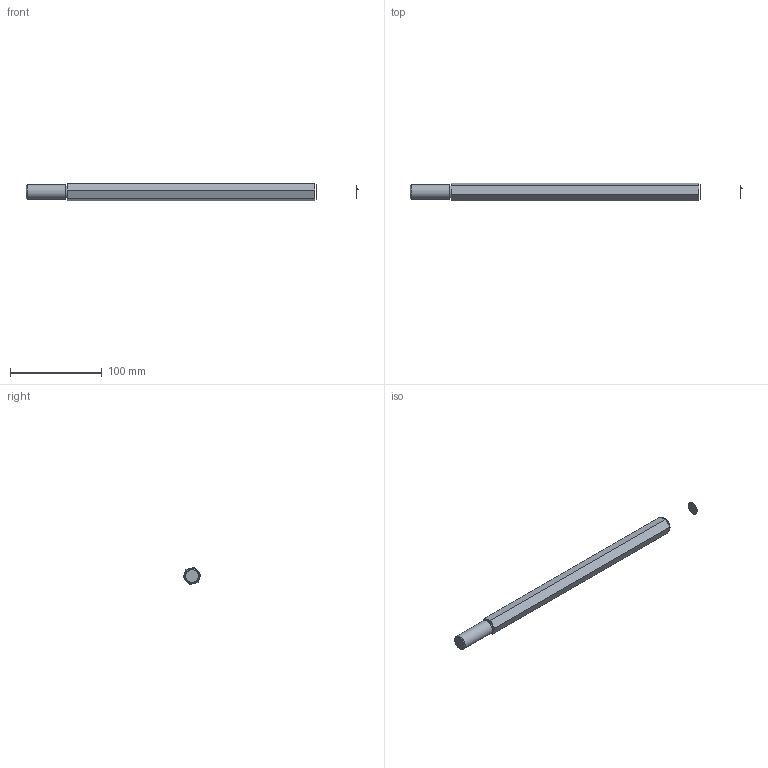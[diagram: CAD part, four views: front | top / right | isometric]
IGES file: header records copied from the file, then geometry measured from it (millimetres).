
Start section: File produced by SOLID-CONCEP (BRep Solid - Entity 186)
Global section: file name: 49.igs; native system: SOLID-CONCEPT V.5.xx; preprocessor: SOLID-CONCEPT-IGES-OUT v2.00; date: 090204.203831; units: millimetre
Bounding box: 362.02 x 19.18 x 18.7 mm (x, y, z)
Surface area: 18808.3 mm2 (no closed solid volume)
Topology: 0 solids, 0 shells, 18 faces, 96 edges, 94 vertices
Faces by surface type: plane 12, cylinder 4, revolution 1, cone 1
Full cylindrical faces by diameter (mm): 13.8 x1, 16 x1
